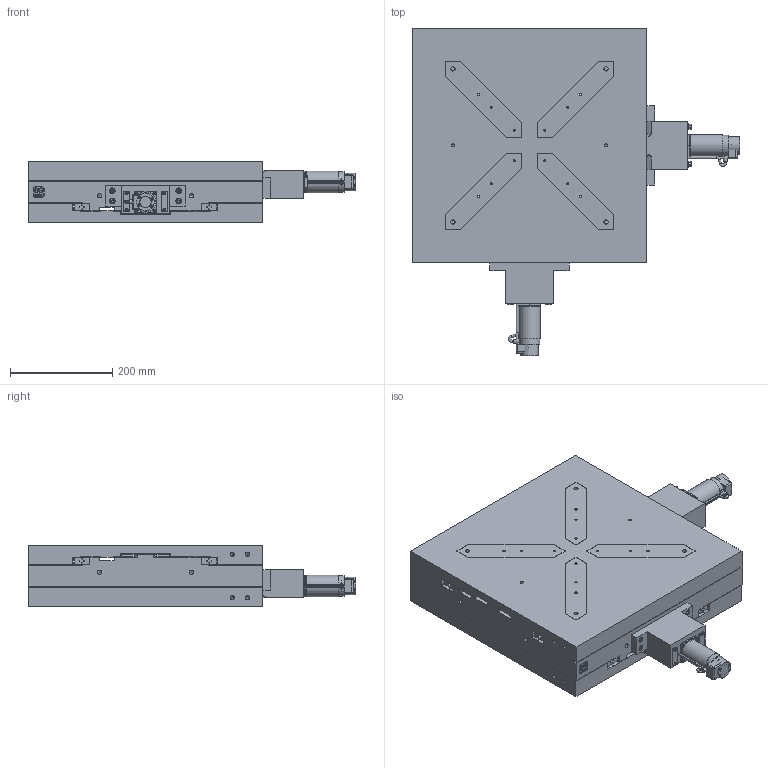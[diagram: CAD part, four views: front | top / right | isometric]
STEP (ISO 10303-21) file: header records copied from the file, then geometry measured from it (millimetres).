
FILE_DESCRIPTION(/* description */ (''),/* implementation_level */ '2;1');
FILE_NAME(/* name */ 'H:\Inventor\Katalog\3D-CAD-Modelle\STP neu\GT9-Lxxx-CAD.stp',/* time_stamp */ '2024-01-16T12:05:26+01:00',/* author */ ('KON3'),/* organization */ (''),/* preprocessor_version */ 'ST-DEVELOPER v18',/* originating_system */ 'Autodesk Inventor 2020',/* authorisation */ '');
FILE_SCHEMA (('AUTOMOTIVE_DESIGN { 1 0 10303 214 3 1 1 }'));
Products named in the file (6): GT9-Lxxx-CAD; GT9-Lxxx_mitte; GT9-Lxxx_unten_oben; ZSS43-MOK_25_Shrinkwrap_1; M35-MAX-O-Zubehoer_Shrinkwrap_1; M35-MAX-GD-Zubehoer_Shrinkwrap_1
Assembly tree (9 placements, depth 2):
  GT9-Lxxx-CAD
    GT9-Lxxx_unten_oben  x2
    GT9-Lxxx_mitte
    ZSS43-MOK_25_Shrinkwrap_1  x2
    M35-MAX-O-Zubehoer_Shrinkwrap_1  x2
    M35-MAX-GD-Zubehoer_Shrinkwrap_1  x2
Bounding box: 642.3 x 642.3 x 120 mm (x, y, z)
Volume: 25374923.8 mm3; surface area: 2169997.9 mm2
Topology: 113 solids, 113 shells, 4080 faces, 10740 edges, 7260 vertices
Faces by surface type: plane 2248, cylinder 1092, bspline 388, cone 258, torus 88, sphere 6
Full cylindrical faces by diameter (mm): 1 x60, 1.221 x4, 1.567 x16, 1.783 x8, 2 x8, 2.013 x32, 2.156 x4, 2.2 x8, 2.459 x16, 3 x32, 3.2 x32, 4 x6, 4.134 x52, 4.3 x8, 4.5 x4, 4.917 x80, 5 x6, 5.3 x2, 5.5 x24, 6 x20, 6.6 x8, 6.647 x8, 8 x8, 8.376 x16, 9 x4, 9.5 x88, 10 x16, 11 x8, 13 x10, 14 x8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
Entity records: 104180 total; most frequent: CARTESIAN_POINT 24056, ORIENTED_EDGE 16118, DIRECTION 15121, EDGE_CURVE 8059, VERTEX_POINT 5527, AXIS2_PLACEMENT_3D 5220, LINE 4681, VECTOR 4681
